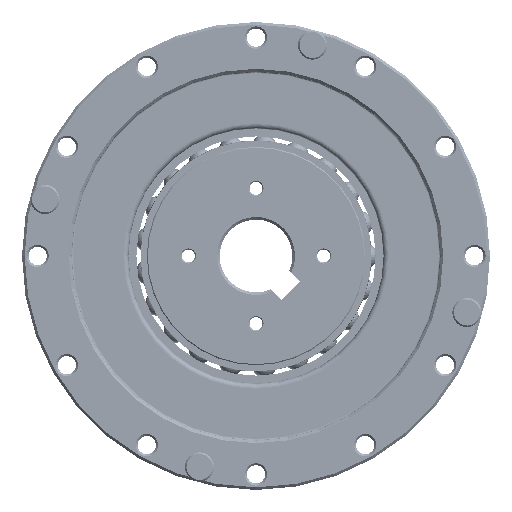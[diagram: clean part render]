
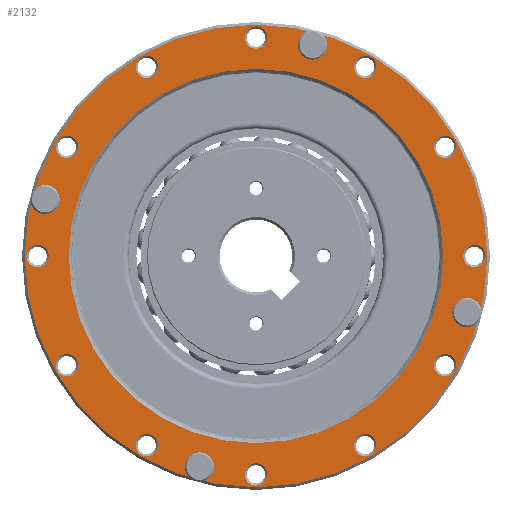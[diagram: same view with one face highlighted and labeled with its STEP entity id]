
A CAD part, front view. The second image highlights one B-rep face of the part: STEP entity #2132.
In plain terms, the highlighted planar face has unit normal (0, -1, 0).
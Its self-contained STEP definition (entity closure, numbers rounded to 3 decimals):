
#648=PLANE('',#12430);
#2132=ADVANCED_FACE('',(#4029,#4030,#4031,#4032,#4033,#4034,#4035,#4036,
#4037,#4038,#4039,#4040,#4041,#4042,#4043,#4044,#4045,#4046),#648,.T.);
#4029=FACE_BOUND('',#5001,.T.);
#4030=FACE_BOUND('',#5002,.T.);
#4031=FACE_BOUND('',#5003,.T.);
#4032=FACE_BOUND('',#5004,.T.);
#4033=FACE_BOUND('',#5005,.T.);
#4034=FACE_BOUND('',#5006,.T.);
#4035=FACE_BOUND('',#5007,.T.);
#4036=FACE_BOUND('',#5008,.T.);
#4037=FACE_BOUND('',#5009,.T.);
#4038=FACE_BOUND('',#5010,.T.);
#4039=FACE_BOUND('',#5011,.T.);
#4040=FACE_BOUND('',#5012,.T.);
#4041=FACE_BOUND('',#5013,.T.);
#4042=FACE_BOUND('',#5014,.T.);
#4043=FACE_BOUND('',#5015,.T.);
#4044=FACE_BOUND('',#5016,.T.);
#4045=FACE_BOUND('',#5017,.T.);
#4046=FACE_BOUND('',#5018,.T.);
#5001=EDGE_LOOP('',(#7145));
#5002=EDGE_LOOP('',(#7146));
#5003=EDGE_LOOP('',(#7147));
#5004=EDGE_LOOP('',(#7148));
#5005=EDGE_LOOP('',(#7149));
#5006=EDGE_LOOP('',(#7150));
#5007=EDGE_LOOP('',(#7151));
#5008=EDGE_LOOP('',(#7152));
#5009=EDGE_LOOP('',(#7153));
#5010=EDGE_LOOP('',(#7154));
#5011=EDGE_LOOP('',(#7155));
#5012=EDGE_LOOP('',(#7156));
#5013=EDGE_LOOP('',(#7157));
#5014=EDGE_LOOP('',(#7158));
#5015=EDGE_LOOP('',(#7159));
#5016=EDGE_LOOP('',(#7160));
#5017=EDGE_LOOP('',(#7161));
#5018=EDGE_LOOP('',(#7162));
#7145=ORIENTED_EDGE('',*,*,#10643,.T.);
#7146=ORIENTED_EDGE('',*,*,#10644,.T.);
#7147=ORIENTED_EDGE('',*,*,#10645,.T.);
#7148=ORIENTED_EDGE('',*,*,#10646,.T.);
#7149=ORIENTED_EDGE('',*,*,#10647,.T.);
#7150=ORIENTED_EDGE('',*,*,#10648,.T.);
#7151=ORIENTED_EDGE('',*,*,#10649,.T.);
#7152=ORIENTED_EDGE('',*,*,#10650,.T.);
#7153=ORIENTED_EDGE('',*,*,#10651,.T.);
#7154=ORIENTED_EDGE('',*,*,#10652,.T.);
#7155=ORIENTED_EDGE('',*,*,#10653,.T.);
#7156=ORIENTED_EDGE('',*,*,#10654,.T.);
#7157=ORIENTED_EDGE('',*,*,#10655,.T.);
#7158=ORIENTED_EDGE('',*,*,#10656,.T.);
#7159=ORIENTED_EDGE('',*,*,#10657,.T.);
#7160=ORIENTED_EDGE('',*,*,#10658,.T.);
#7161=ORIENTED_EDGE('',*,*,#10659,.T.);
#7162=ORIENTED_EDGE('',*,*,#10660,.T.);
#9292=VERTEX_POINT('',#94460);
#9293=VERTEX_POINT('',#94462);
#9294=VERTEX_POINT('',#94464);
#9295=VERTEX_POINT('',#94466);
#9296=VERTEX_POINT('',#94468);
#9297=VERTEX_POINT('',#94470);
#9298=VERTEX_POINT('',#94472);
#9299=VERTEX_POINT('',#94474);
#9300=VERTEX_POINT('',#94476);
#9301=VERTEX_POINT('',#94478);
#9302=VERTEX_POINT('',#94480);
#9303=VERTEX_POINT('',#94482);
#9304=VERTEX_POINT('',#94484);
#9305=VERTEX_POINT('',#94486);
#9306=VERTEX_POINT('',#94488);
#9307=VERTEX_POINT('',#94490);
#9308=VERTEX_POINT('',#94492);
#9309=VERTEX_POINT('',#94494);
#10643=EDGE_CURVE('',#9292,#9292,#11660,.T.);
#10644=EDGE_CURVE('',#9293,#9293,#11661,.T.);
#10645=EDGE_CURVE('',#9294,#9294,#11662,.T.);
#10646=EDGE_CURVE('',#9295,#9295,#11663,.T.);
#10647=EDGE_CURVE('',#9296,#9296,#11664,.T.);
#10648=EDGE_CURVE('',#9297,#9297,#11665,.T.);
#10649=EDGE_CURVE('',#9298,#9298,#11666,.T.);
#10650=EDGE_CURVE('',#9299,#9299,#11667,.T.);
#10651=EDGE_CURVE('',#9300,#9300,#11668,.T.);
#10652=EDGE_CURVE('',#9301,#9301,#11669,.T.);
#10653=EDGE_CURVE('',#9302,#9302,#11670,.T.);
#10654=EDGE_CURVE('',#9303,#9303,#11671,.T.);
#10655=EDGE_CURVE('',#9304,#9304,#11672,.T.);
#10656=EDGE_CURVE('',#9305,#9305,#11673,.T.);
#10657=EDGE_CURVE('',#9306,#9306,#11674,.T.);
#10658=EDGE_CURVE('',#9307,#9307,#11675,.T.);
#10659=EDGE_CURVE('',#9308,#9308,#11676,.T.);
#10660=EDGE_CURVE('',#9309,#9309,#11677,.T.);
#11660=CIRCLE('',#12412,36.);
#11661=CIRCLE('',#12413,44.5);
#11662=CIRCLE('',#12414,2.15);
#11663=CIRCLE('',#12415,2.15);
#11664=CIRCLE('',#12416,2.15);
#11665=CIRCLE('',#12417,2.15);
#11666=CIRCLE('',#12418,2.15);
#11667=CIRCLE('',#12419,2.15);
#11668=CIRCLE('',#12420,2.15);
#11669=CIRCLE('',#12421,2.15);
#11670=CIRCLE('',#12422,2.15);
#11671=CIRCLE('',#12423,2.15);
#11672=CIRCLE('',#12424,2.15);
#11673=CIRCLE('',#12425,2.15);
#11674=CIRCLE('',#12426,2.15);
#11675=CIRCLE('',#12427,2.15);
#11676=CIRCLE('',#12428,2.15);
#11677=CIRCLE('',#12429,2.15);
#12412=AXIS2_PLACEMENT_3D('',#94459,#14263,#14264);
#12413=AXIS2_PLACEMENT_3D('',#94461,#14265,#14266);
#12414=AXIS2_PLACEMENT_3D('',#94463,#14267,#14268);
#12415=AXIS2_PLACEMENT_3D('',#94465,#14269,#14270);
#12416=AXIS2_PLACEMENT_3D('',#94467,#14271,#14272);
#12417=AXIS2_PLACEMENT_3D('',#94469,#14273,#14274);
#12418=AXIS2_PLACEMENT_3D('',#94471,#14275,#14276);
#12419=AXIS2_PLACEMENT_3D('',#94473,#14277,#14278);
#12420=AXIS2_PLACEMENT_3D('',#94475,#14279,#14280);
#12421=AXIS2_PLACEMENT_3D('',#94477,#14281,#14282);
#12422=AXIS2_PLACEMENT_3D('',#94479,#14283,#14284);
#12423=AXIS2_PLACEMENT_3D('',#94481,#14285,#14286);
#12424=AXIS2_PLACEMENT_3D('',#94483,#14287,#14288);
#12425=AXIS2_PLACEMENT_3D('',#94485,#14289,#14290);
#12426=AXIS2_PLACEMENT_3D('',#94487,#14291,#14292);
#12427=AXIS2_PLACEMENT_3D('',#94489,#14293,#14294);
#12428=AXIS2_PLACEMENT_3D('',#94491,#14295,#14296);
#12429=AXIS2_PLACEMENT_3D('',#94493,#14297,#14298);
#12430=AXIS2_PLACEMENT_3D('',#94495,#14299,#14300);
#14263=DIRECTION('',(0.,1.,0.));
#14264=DIRECTION('',(0.,0.,-1.));
#14265=DIRECTION('',(0.,-1.,0.));
#14266=DIRECTION('',(0.,0.,-1.));
#14267=DIRECTION('',(0.,1.,0.));
#14268=DIRECTION('',(0.,0.,-1.));
#14269=DIRECTION('',(0.,1.,0.));
#14270=DIRECTION('',(0.,0.,-1.));
#14271=DIRECTION('',(0.,1.,0.));
#14272=DIRECTION('',(0.,0.,-1.));
#14273=DIRECTION('',(0.,1.,0.));
#14274=DIRECTION('',(0.,0.,-1.));
#14275=DIRECTION('',(0.,1.,0.));
#14276=DIRECTION('',(0.,0.,-1.));
#14277=DIRECTION('',(0.,1.,0.));
#14278=DIRECTION('',(0.,0.,-1.));
#14279=DIRECTION('',(0.,1.,0.));
#14280=DIRECTION('',(0.,0.,-1.));
#14281=DIRECTION('',(0.,1.,0.));
#14282=DIRECTION('',(0.,0.,-1.));
#14283=DIRECTION('',(0.,1.,0.));
#14284=DIRECTION('',(0.,0.,-1.));
#14285=DIRECTION('',(0.,1.,0.));
#14286=DIRECTION('',(0.,0.,-1.));
#14287=DIRECTION('',(0.,1.,0.));
#14288=DIRECTION('',(0.,0.,-1.));
#14289=DIRECTION('',(0.,1.,0.));
#14290=DIRECTION('',(0.,0.,-1.));
#14291=DIRECTION('',(0.,1.,0.));
#14292=DIRECTION('',(0.,0.,-1.));
#14293=DIRECTION('',(0.,1.,0.));
#14294=DIRECTION('',(0.,0.,-1.));
#14295=DIRECTION('',(0.,1.,0.));
#14296=DIRECTION('',(0.,0.,-1.));
#14297=DIRECTION('',(0.,1.,0.));
#14298=DIRECTION('',(0.,0.,-1.));
#14299=DIRECTION('',(0.,-1.,0.));
#14300=DIRECTION('',(0.,0.,-1.));
#94459=CARTESIAN_POINT('',(0.,0.,0.));
#94460=CARTESIAN_POINT('',(0.,0.,-36.));
#94461=CARTESIAN_POINT('',(0.,0.,0.));
#94462=CARTESIAN_POINT('',(0.,0.,-44.5));
#94463=CARTESIAN_POINT('',(42.,0.,0.));
#94464=CARTESIAN_POINT('',(42.,0.,-2.15));
#94465=CARTESIAN_POINT('',(40.569,0.,-10.87));
#94466=CARTESIAN_POINT('',(40.569,0.,-13.02));
#94467=CARTESIAN_POINT('',(10.87,0.,40.569));
#94468=CARTESIAN_POINT('',(10.87,0.,38.419));
#94469=CARTESIAN_POINT('',(-40.569,0.,10.87));
#94470=CARTESIAN_POINT('',(-40.569,0.,8.72));
#94471=CARTESIAN_POINT('',(-10.87,0.,-40.569));
#94472=CARTESIAN_POINT('',(-10.87,0.,-42.719));
#94473=CARTESIAN_POINT('',(36.373,0.,21.));
#94474=CARTESIAN_POINT('',(36.373,0.,18.85));
#94475=CARTESIAN_POINT('',(21.,0.,36.373));
#94476=CARTESIAN_POINT('',(21.,0.,34.223));
#94477=CARTESIAN_POINT('',(0.,0.,42.));
#94478=CARTESIAN_POINT('',(0.,0.,39.85));
#94479=CARTESIAN_POINT('',(-21.,0.,36.373));
#94480=CARTESIAN_POINT('',(-21.,0.,34.223));
#94481=CARTESIAN_POINT('',(-36.373,0.,21.));
#94482=CARTESIAN_POINT('',(-36.373,0.,18.85));
#94483=CARTESIAN_POINT('',(-42.,0.,0.));
#94484=CARTESIAN_POINT('',(-42.,0.,-2.15));
#94485=CARTESIAN_POINT('',(-36.373,0.,-21.));
#94486=CARTESIAN_POINT('',(-36.373,0.,-23.15));
#94487=CARTESIAN_POINT('',(-21.,0.,-36.373));
#94488=CARTESIAN_POINT('',(-21.,0.,-38.523));
#94489=CARTESIAN_POINT('',(0.,0.,-42.));
#94490=CARTESIAN_POINT('',(0.,0.,-44.15));
#94491=CARTESIAN_POINT('',(21.,0.,-36.373));
#94492=CARTESIAN_POINT('',(21.,0.,-38.523));
#94493=CARTESIAN_POINT('',(36.373,0.,-21.));
#94494=CARTESIAN_POINT('',(36.373,0.,-23.15));
#94495=CARTESIAN_POINT('',(36.5,0.,0.));
